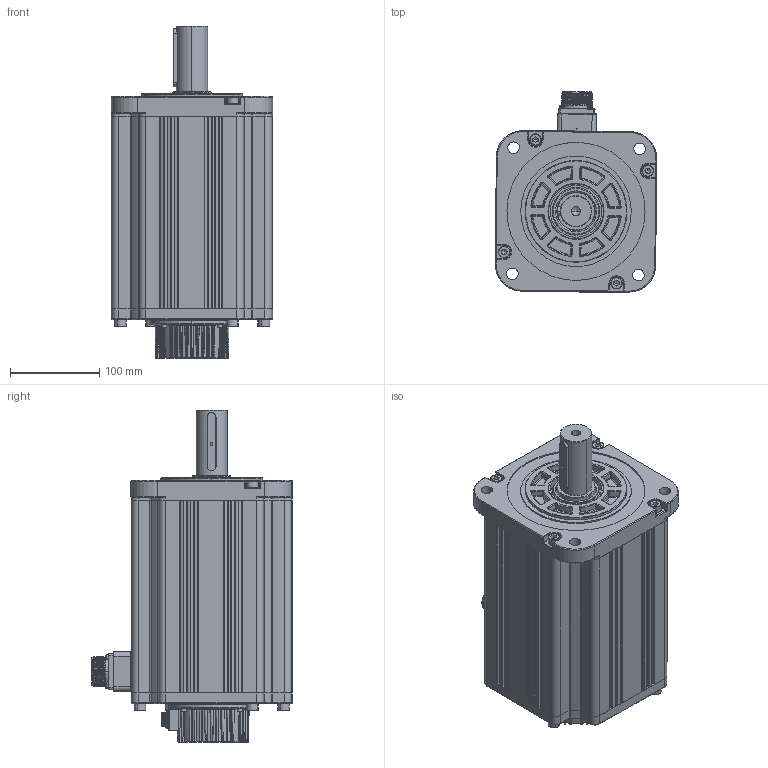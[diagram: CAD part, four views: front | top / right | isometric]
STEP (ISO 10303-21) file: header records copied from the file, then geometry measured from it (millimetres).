
FILE_DESCRIPTION (( 'STEP AP214' ), '1' );
FILE_NAME ('153.5酗沺郋 拸价陬.STEP', '2021-10-26T06:30:59', ( '' ), ( '' ), 'SwSTEP 2.0', 'SolidWorks 2014', '' );
FILE_SCHEMA (( 'AUTOMOTIVE_DESIGN' ));
Length unit declared in the file: millimetre
Products named in the file (16): SC蚐猾 D00B999YF8-TC 44-62-10; 埴芛囀鞠褒 ISO 4762 M3 x 10 --- 10N; 180粣-47沺郋_1; SCCMS3102A22-22P-Z; 埴芛囀鞠褒 ISO 4762 M3 x 30 --- 18N; SC晤鎢ん欶200908_10郋; 坋趼攫芛蹟佪 M2X8-8  H type-N; SC180瑤脣釱1015; 180#綴傷裔; SC180ヶ傷裔1009; SCSC瑤諾脣芛 16M-9H; 埴芛囀鞠褒 ISO 4762 M8 x 30 --- 30N; 153.5酗沺郋 拸价陬; す瑩^180#陔萇儂-拸价陬 201021_1; 180#陔隅赽201019; 180儂褲1009
Assembly tree (31 placements, depth 3):
  153.5酗沺郋 拸价陬
    SC晤鎢ん欶200908_10郋
    SCSC瑤諾脣芛 16M-9H
    SC蚐猾 D00B999YF8-TC 44-62-10
    坋趼攫芛蹟佪 M2X8-8  H type-N  x4
    埴芛囀鞠褒 ISO 4762 M3 x 10 --- 10N  x4
    埴芛囀鞠褒 ISO 4762 M8 x 30 --- 30N  x8
    埴芛囀鞠褒 ISO 4762 M3 x 30 --- 18N  x4
    180#綴傷裔
    180#陔隅赽201019
      SC180ヶ傷裔1009
      SCCMS3102A22-22P-Z
      SC180瑤脣釱1015
      180儂褲1009
    180粣-47沺郋_1
    す瑩^180#陔萇儂-拸价陬 201021_1
Bounding box: 181.11 x 225.3 x 372.5 mm (x, y, z)
Volume: 2330271.4 mm3; surface area: 621975.2 mm2
Topology: 30 solids, 30 shells, 3131 faces, 7601 edges, 4432 vertices
Faces by surface type: cylinder 1021, plane 763, torus 465, bspline 440, cone 253, sphere 189
Entity records: 130123 total; most frequent: CARTESIAN_POINT 42143, ORIENTED_EDGE 12846, DIRECTION 12554, EDGE_CURVE 6423, AXIS2_PLACEMENT_3D 5243, VERTEX_POINT 3840, EDGE_LOOP 2893, CIRCLE 2885
